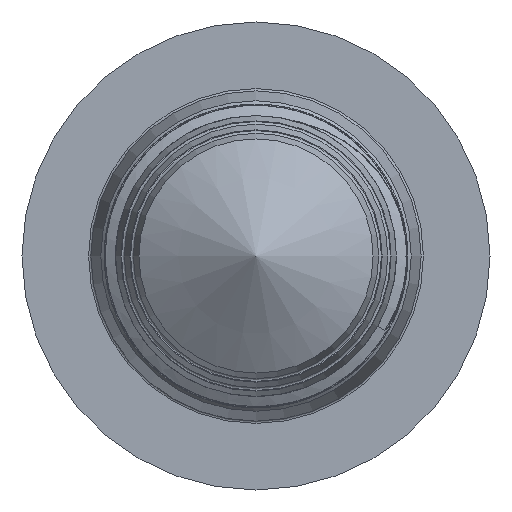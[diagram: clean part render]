
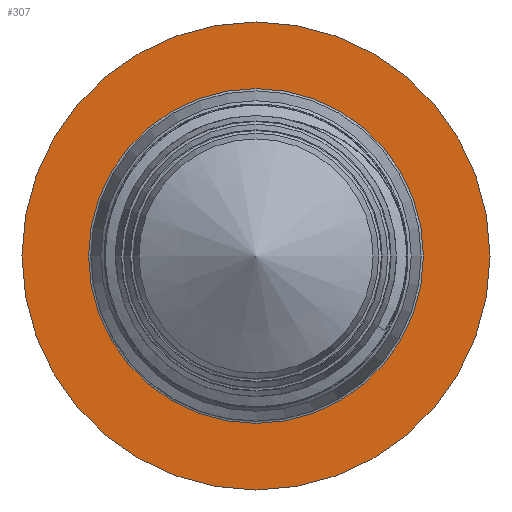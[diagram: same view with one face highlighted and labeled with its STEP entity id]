
A CAD part, left-side view. The second image highlights one B-rep face of the part: STEP entity #307.
In plain terms, the highlighted planar face has unit normal (-1, 0, 0).
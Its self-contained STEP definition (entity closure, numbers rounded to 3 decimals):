
#15=PLANE('',#336);
#21=FACE_BOUND('',#84,.T.);
#57=FACE_OUTER_BOUND('',#83,.T.);
#83=EDGE_LOOP('',(#258));
#84=EDGE_LOOP('',(#259));
#118=CIRCLE('',#335,0.813);
#119=CIRCLE('',#337,0.581);
#166=VERTEX_POINT('',#2356);
#167=VERTEX_POINT('',#2359);
#203=EDGE_CURVE('',#166,#166,#118,.T.);
#204=EDGE_CURVE('',#167,#167,#119,.T.);
#258=ORIENTED_EDGE('',*,*,#203,.T.);
#259=ORIENTED_EDGE('',*,*,#204,.F.);
#307=ADVANCED_FACE('',(#57,#21),#15,.T.);
#335=AXIS2_PLACEMENT_3D('',#2357,#388,#389);
#336=AXIS2_PLACEMENT_3D('',#2358,#390,#391);
#337=AXIS2_PLACEMENT_3D('',#2360,#392,#393);
#388=DIRECTION('center_axis',(-1.,0.,0.));
#389=DIRECTION('ref_axis',(0.,0.,1.));
#390=DIRECTION('center_axis',(-1.,0.,0.));
#391=DIRECTION('ref_axis',(0.,0.,1.));
#392=DIRECTION('center_axis',(-1.,0.,0.));
#393=DIRECTION('ref_axis',(0.,0.,1.));
#2356=CARTESIAN_POINT('',(0.,-0.813,0.));
#2357=CARTESIAN_POINT('Origin',(0.,0.,
0.));
#2358=CARTESIAN_POINT('Origin',(0.,-0.581,
0.));
#2359=CARTESIAN_POINT('',(0.,-0.581,0.));
#2360=CARTESIAN_POINT('Origin',(0.,0.,
0.));
